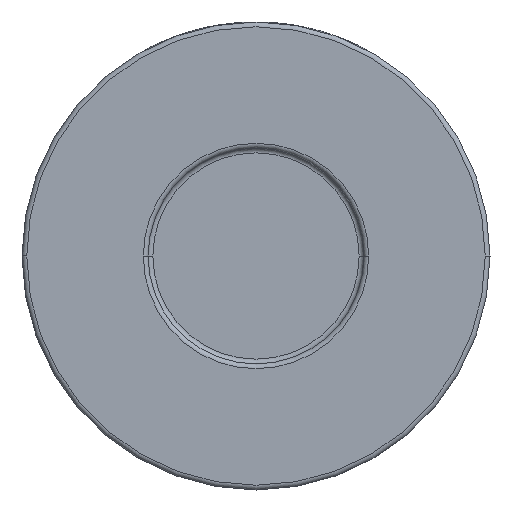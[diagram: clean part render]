
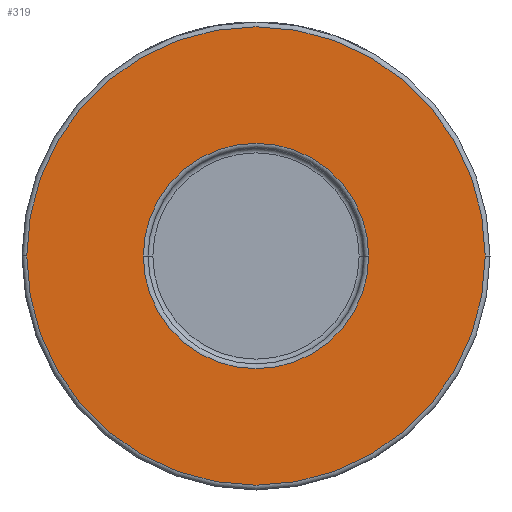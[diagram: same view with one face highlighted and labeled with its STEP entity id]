
A CAD part, front view. The second image highlights one B-rep face of the part: STEP entity #319.
In plain terms, the highlighted planar face has unit normal (0, -1, 0).
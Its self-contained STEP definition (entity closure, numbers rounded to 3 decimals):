
#67 = EDGE_LOOP ( 'NONE', ( #2001, #1939 ) ) ;
#250 = VERTEX_POINT ( 'NONE', #917 ) ;
#255 = CARTESIAN_POINT ( 'NONE',  ( 23.6, -32., 0. ) ) ;
#319 = ADVANCED_FACE ( 'NONE', ( #1769, #2501 ), #4334, .T. ) ;
#352 = ORIENTED_EDGE ( 'NONE', *, *, #2264, .T. ) ;
#409 = CARTESIAN_POINT ( 'NONE',  ( 0., -32., 0. ) ) ;
#549 = DIRECTION ( 'NONE',  ( 0., -1., 0. ) ) ;
#604 = AXIS2_PLACEMENT_3D ( 'NONE', #2451, #1082, #1699 ) ;
#714 = EDGE_CURVE ( 'NONE', #250, #2442, #1732, .T. ) ;
#763 = DIRECTION ( 'NONE',  ( 1., 0., 0. ) ) ;
#910 = CIRCLE ( 'NONE', #4250, 23.6 ) ;
#917 = CARTESIAN_POINT ( 'NONE',  ( 48., -32., 0. ) ) ;
#1082 = DIRECTION ( 'NONE',  ( 0., -1., 0. ) ) ;
#1209 = CIRCLE ( 'NONE', #3492, 48. ) ;
#1317 = EDGE_LOOP ( 'NONE', ( #352, #4165 ) ) ;
#1483 = DIRECTION ( 'NONE',  ( 1., 0., 0. ) ) ;
#1699 = DIRECTION ( 'NONE',  ( 1., 0., 0. ) ) ;
#1732 = CIRCLE ( 'NONE', #2103, 48. ) ;
#1769 = FACE_BOUND ( 'NONE', #1317, .T. ) ;
#1939 = ORIENTED_EDGE ( 'NONE', *, *, #3166, .T. ) ;
#1954 = CARTESIAN_POINT ( 'NONE',  ( -48., -32., 0. ) ) ;
#2001 = ORIENTED_EDGE ( 'NONE', *, *, #714, .T. ) ;
#2103 = AXIS2_PLACEMENT_3D ( 'NONE', #3192, #3926, #1483 ) ;
#2264 = EDGE_CURVE ( 'NONE', #4460, #2330, #3188, .T. ) ;
#2330 = VERTEX_POINT ( 'NONE', #2531 ) ;
#2354 = EDGE_CURVE ( 'NONE', #2330, #4460, #910, .T. ) ;
#2442 = VERTEX_POINT ( 'NONE', #1954 ) ;
#2451 = CARTESIAN_POINT ( 'NONE',  ( 49., -32., 0. ) ) ;
#2501 = FACE_OUTER_BOUND ( 'NONE', #67, .T. ) ;
#2531 = CARTESIAN_POINT ( 'NONE',  ( -23.6, -32., 0. ) ) ;
#2576 = CARTESIAN_POINT ( 'NONE',  ( 0., -32., 0. ) ) ;
#2864 = DIRECTION ( 'NONE',  ( 0., 1., 0. ) ) ;
#3166 = EDGE_CURVE ( 'NONE', #2442, #250, #1209, .T. ) ;
#3188 = CIRCLE ( 'NONE', #4402, 23.6 ) ;
#3192 = CARTESIAN_POINT ( 'NONE',  ( 0., -32., 0. ) ) ;
#3277 = DIRECTION ( 'NONE',  ( 0., 1., 0. ) ) ;
#3492 = AXIS2_PLACEMENT_3D ( 'NONE', #4184, #549, #4154 ) ;
#3926 = DIRECTION ( 'NONE',  ( 0., -1., 0. ) ) ;
#3934 = DIRECTION ( 'NONE',  ( 1., 0., 0. ) ) ;
#4154 = DIRECTION ( 'NONE',  ( 1., 0., 0. ) ) ;
#4165 = ORIENTED_EDGE ( 'NONE', *, *, #2354, .T. ) ;
#4184 = CARTESIAN_POINT ( 'NONE',  ( 0., -32., 0. ) ) ;
#4250 = AXIS2_PLACEMENT_3D ( 'NONE', #409, #3277, #763 ) ;
#4334 = PLANE ( 'NONE',  #604 ) ;
#4402 = AXIS2_PLACEMENT_3D ( 'NONE', #2576, #2864, #3934 ) ;
#4460 = VERTEX_POINT ( 'NONE', #255 ) ;
